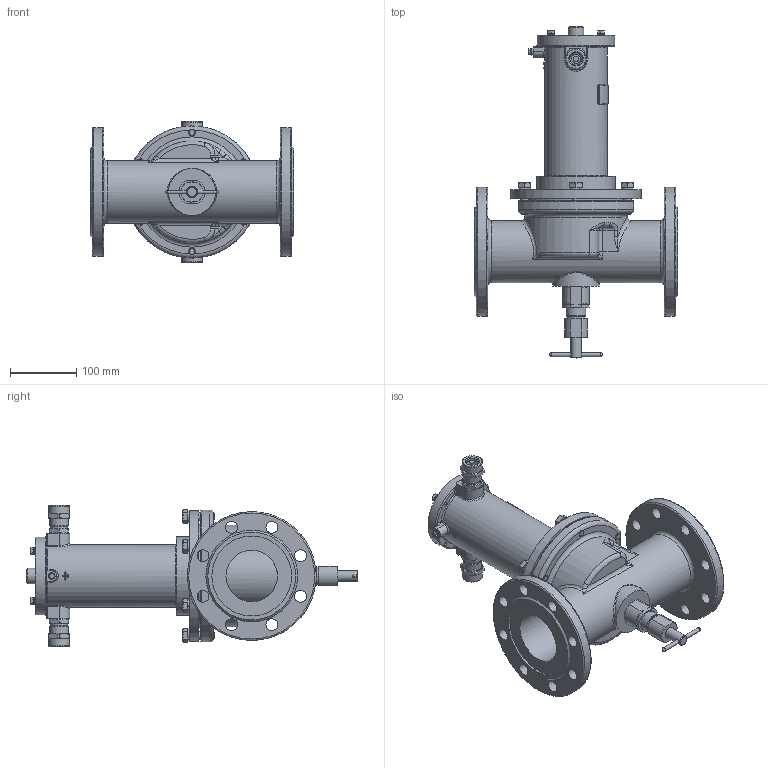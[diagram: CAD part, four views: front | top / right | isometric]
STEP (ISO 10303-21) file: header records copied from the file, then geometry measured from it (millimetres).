
FILE_DESCRIPTION(('STEP AP203'), '1');
FILE_NAME('ÑÅÍÑ-ÏÔ DN80PN25-ÑÂ.stp', '2018-10-09T08:08:36', ('Îðëîâ Å.Â.'), ('ÎÎÎ ÍÏÏ Ñåíñîð'), 'ASCON STEP Converter 1.3', 'Kompas 3D', '');
FILE_SCHEMA(('CONFIG_CONTROL_DESIGN','SUPPORT_RESOURCE_SCHEMA'));
Length unit declared in the file: millimetre
Products named in the file (1): 59
Bounding box: 308 x 503 x 214 mm (x, y, z)
Volume: 3091451.7 mm3; surface area: 712664.9 mm2
Topology: 3 solids, 17 shells, 1970 faces, 5273 edges, 3415 vertices
Faces by surface type: cylinder 997, plane 722, cone 122, bspline 56, torus 49, extrusion 16, sphere 8
Full cylindrical faces by diameter (mm): 3.5 x2, 4.134 x1, 4.917 x4, 5 x1, 6 x9, 6.5 x4, 8 x4, 10 x1, 12 x10, 13 x8, 16 x2, 17 x2, 18 x17, 18.632 x2, 20 x3, 22 x2, 22.376 x2, 23 x1, 23.5 x2, 24 x3, 24.5 x2, 26 x4, 26.376 x2, 27.8 x1, 28 x3, 28.5 x2, 30 x2, 31 x2, 53 x1, 56 x2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
Entity records: 79748 total; most frequent: CARTESIAN_POINT 29609, DIRECTION 10781, ORIENTED_EDGE 10492, EDGE_CURVE 5246, AXIS2_PLACEMENT_3D 4146, VERTEX_POINT 3415, VECTOR 2489, LINE 2473
